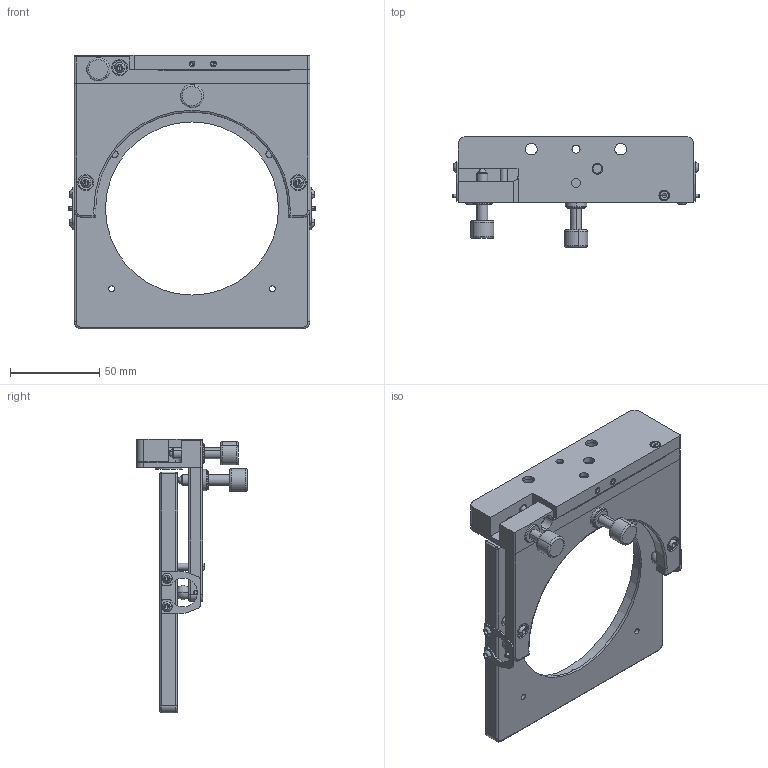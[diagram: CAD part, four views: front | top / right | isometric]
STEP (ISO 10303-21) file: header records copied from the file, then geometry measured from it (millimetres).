
FILE_DESCRIPTION (( 'STEP AP203' ), '1' );
FILE_NAME ('7MM08102謗峎覃淕噩殤.STEP', '2022-03-04T02:59:23', ( '' ), ( '' ), 'SwSTEP 2.0', 'SolidWorks 2018', '' );
FILE_SCHEMA (( 'CONFIG_CONTROL_DESIGN' ));
Length unit declared in the file: millimetre
Products named in the file (1): 7MM08102謗峎覃淕噩殤
Bounding box: 138 x 62 x 153.5 mm (x, y, z)
Volume: 201072.7 mm3; surface area: 82170.6 mm2
Topology: 51 solids, 51 shells, 881 faces, 1963 edges, 1178 vertices
Faces by surface type: plane 355, cylinder 330, cone 132, sphere 38, torus 26
Entity records: 24322 total; most frequent: DIRECTION 4507, CARTESIAN_POINT 4330, ORIENTED_EDGE 3778, EDGE_CURVE 1889, AXIS2_PLACEMENT_3D 1765, VERTEX_POINT 1166, EDGE_LOOP 1041, LINE 977
